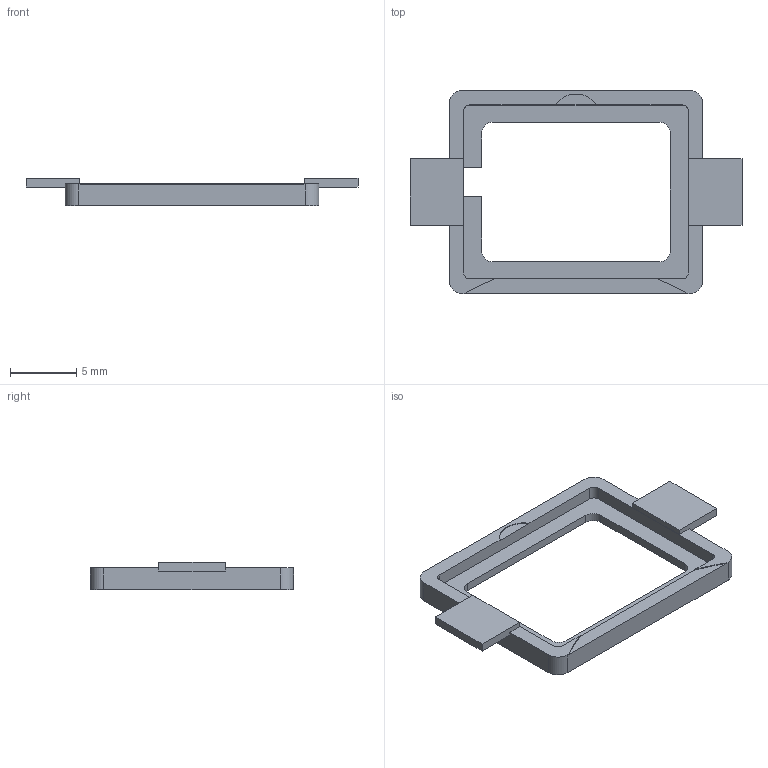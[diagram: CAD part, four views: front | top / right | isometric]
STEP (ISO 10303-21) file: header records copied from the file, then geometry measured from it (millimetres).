
FILE_DESCRIPTION(/* description */ ('EOS PA 2200, unfilled PA12; requested grade, RPS availability to confirm | SLS; bond ears to tub; retain module at bare-edge lands after dry-fit | Bottom-port PCB face points forward. PCB rear Z7.95, front Z8.75; 0.65 mm support floor. Module minimum Z6.97; nominal cell top Z6.22. Low-profile lateral soldered wiring required; no pin header.'),/* implementation_level */ '2;1');
FILE_NAME(/* name */ '18_microphone_cradle.step',/* time_stamp */ '2026-09-04T21:00:01-07:00',/* author */ (''),/* organization */ (''),/* preprocessor_version */ 'ST-DEVELOPER v20.1',/* originating_system */ 'Autodesk Translation Framework v15.8.0.0',/* authorisation */ '');
FILE_SCHEMA (('AUTOMOTIVE_DESIGN { 1 0 10303 214 3 1 1 }'));
Length unit declared in the file: centimetre
Products named in the file (2): 2026-09-04-21-00-01-603; 2026-09-04-21-00-01-603_1
Assembly tree (1 placements, depth 2):
  2026-09-04-21-00-01-603
    2026-09-04-21-00-01-603_1
Bounding box: 25 x 15.3 x 2.05 mm (x, y, z)
Volume: 183 mm3; surface area: 558.1 mm2
Topology: 1 solids, 1 shells, 49 faces, 144 edges, 96 vertices
Faces by surface type: plane 34, cylinder 15
Entity records: 1685 total; most frequent: CARTESIAN_POINT 292, ORIENTED_EDGE 288, DIRECTION 278, EDGE_CURVE 144, LINE 114, VECTOR 114, VERTEX_POINT 96, AXIS2_PLACEMENT_3D 82
